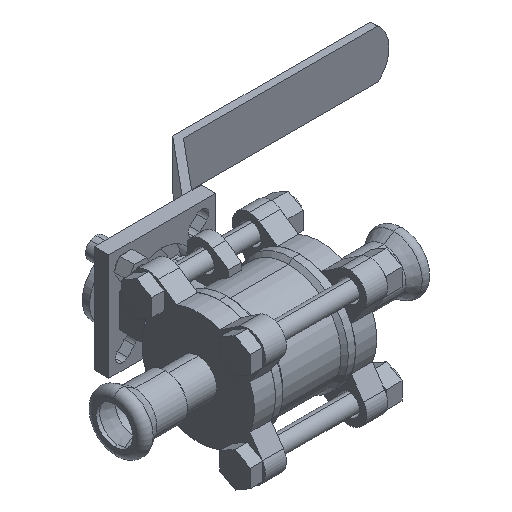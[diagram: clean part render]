
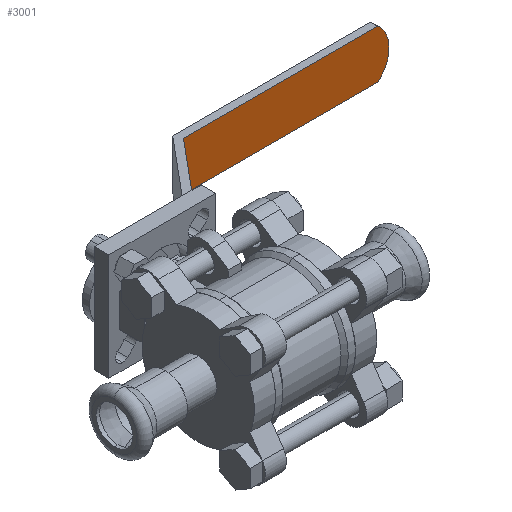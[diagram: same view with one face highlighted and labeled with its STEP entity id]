
A CAD part, isometric view. The second image highlights one B-rep face of the part: STEP entity #3001.
In plain terms, the highlighted planar face has unit normal (0, -1, 0).
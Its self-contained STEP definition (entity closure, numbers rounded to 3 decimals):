
#2135 = FACE_OUTER_BOUND ( 'NONE', #22302, .T. ) ;
#3001 = ADVANCED_FACE ( 'NONE', ( #2135 ), #32863, .F. ) ;
#5421 = EDGE_CURVE ( 'NONE', #17961, #10886, #12771, .T. ) ;
#5484 = VECTOR ( 'NONE', #7530, 1000. ) ;
#5565 = CARTESIAN_POINT ( 'NONE',  ( 127., 78.25, 10. ) ) ;
#7014 = VECTOR ( 'NONE', #23400, 1000. ) ;
#7199 = LINE ( 'NONE', #17539, #7014 ) ;
#7530 = DIRECTION ( 'NONE',  ( 1., 0., 0. ) ) ;
#7835 = DIRECTION ( 'NONE',  ( 0., 1., 0. ) ) ;
#8133 = DIRECTION ( 'NONE',  ( 0., -1., 0. ) ) ;
#9657 = DIRECTION ( 'NONE',  ( 1., 0., 0. ) ) ;
#9732 = AXIS2_PLACEMENT_3D ( 'NONE', #26024, #8133, #23488 ) ;
#9840 = ORIENTED_EDGE ( 'NONE', *, *, #21699, .T. ) ;
#10695 = VECTOR ( 'NONE', #9657, 1000. ) ;
#10729 = AXIS2_PLACEMENT_3D ( 'NONE', #33357, #7835, #15630 ) ;
#10886 = VERTEX_POINT ( 'NONE', #19283 ) ;
#12771 = LINE ( 'NONE', #17544, #5484 ) ;
#15630 = DIRECTION ( 'NONE',  ( 0., 0., 1. ) ) ;
#17539 = CARTESIAN_POINT ( 'NONE',  ( 47., 78.25, 10. ) ) ;
#17544 = CARTESIAN_POINT ( 'NONE',  ( 47., 78.25, -10. ) ) ;
#17961 = VERTEX_POINT ( 'NONE', #33194 ) ;
#19283 = CARTESIAN_POINT ( 'NONE',  ( 127., 78.25, -10. ) ) ;
#20296 = VERTEX_POINT ( 'NONE', #5565 ) ;
#20498 = CIRCLE ( 'NONE', #9732, 13. ) ;
#20588 = ORIENTED_EDGE ( 'NONE', *, *, #5421, .T. ) ;
#21699 = EDGE_CURVE ( 'NONE', #10886, #20296, #20498, .T. ) ;
#22302 = EDGE_LOOP ( 'NONE', ( #20588, #9840, #29264, #23719 ) ) ;
#22501 = CARTESIAN_POINT ( 'NONE',  ( 47., 78.25, 10. ) ) ;
#22777 = EDGE_CURVE ( 'NONE', #30614, #20296, #27542, .T. ) ;
#23400 = DIRECTION ( 'NONE',  ( 0., 0., -1. ) ) ;
#23488 = DIRECTION ( 'NONE',  ( 0., 0., -1. ) ) ;
#23719 = ORIENTED_EDGE ( 'NONE', *, *, #26132, .T. ) ;
#26024 = CARTESIAN_POINT ( 'NONE',  ( 118.693, 78.25, 0. ) ) ;
#26132 = EDGE_CURVE ( 'NONE', #30614, #17961, #7199, .T. ) ;
#27542 = LINE ( 'NONE', #22501, #10695 ) ;
#29264 = ORIENTED_EDGE ( 'NONE', *, *, #22777, .F. ) ;
#29428 = CARTESIAN_POINT ( 'NONE',  ( 47., 78.25, 10. ) ) ;
#30614 = VERTEX_POINT ( 'NONE', #29428 ) ;
#32863 = PLANE ( 'NONE',  #10729 ) ;
#33194 = CARTESIAN_POINT ( 'NONE',  ( 47., 78.25, -10. ) ) ;
#33357 = CARTESIAN_POINT ( 'NONE',  ( 47., 78.25, 10. ) ) ;
